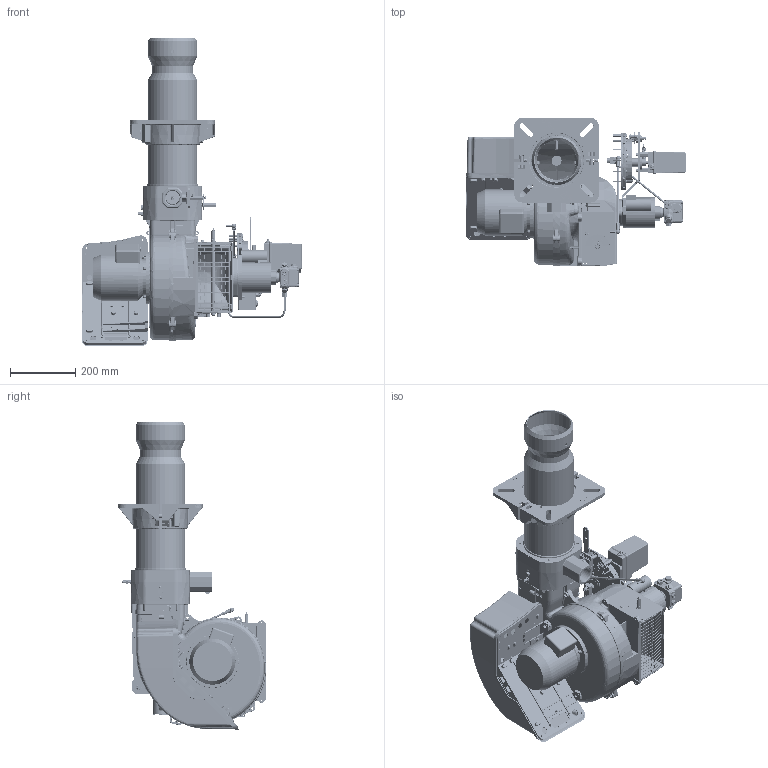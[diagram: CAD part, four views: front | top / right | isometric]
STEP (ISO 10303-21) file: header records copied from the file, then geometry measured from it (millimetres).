
FILE_DESCRIPTION (( 'STEP AP214' ), '1' );
FILE_NAME ('56470010 - TBML 60 P.STEP', '2022-06-15T14:36:07', ( '' ), ( '' ), 'SwSTEP 2.0', 'SolidWorks 2021', '' );
FILE_SCHEMA (( 'AUTOMOTIVE_DESIGN' ));
Length unit declared in the file: millimetre
Products named in the file (111): 8025010013-106297; circlip for bores normal_din_Circlip DIN 472 - 37 x 1.5; 0012120194-107692; spring pin slotted_ld_iso_Spring Pin ISO 13337 - 5 x 16 - St; socket countersunk head screw_din_DIN 7991 - M5 x 25 --- 25C; 0025050035-115807-AUTO; 0006050149-03557; 0005010131-102741; 0012120195-107694; 18690-04847; 0025010002-106312; 0025050035-115806; 0025030016-106434; 30418-02239; 0025010001-106296; hexalobular socket pan head_iso_ISO 14583 - M4 x 8 -4.8-C; 56036-105513; 99975-102673_L. 218; 0012120175-02868; 0025010025-106298; 0025040038-106880; radial ball bearing_68_skf_SKF - 625 - 8,SI,NC,8_68; 0005170059-04177; 0025050034-104865; 0025050039-106195-AUTO; 0012120190-107146; 146-109669; 54200-02171; socket countersunk head screw_din_DIN 7991 - M6 x 20 --- 20C; 0025050028-107911; 0012120170-02310; serrated lock washer 1_din_DIN 6798-A5.3; 56470010 - TBML 60 P; o-rings series a_nbr_iso_O-ring 6.75x1.78-A-ISO 3601-1; 54056-03097; 0012120157-02161; 0025030010-106321; socket countersunk head screw_din_DIN 7991 - M8 x 25 --- 25C; 0012120173-02308; 0025040035-100630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
Assembly tree (170 placements, depth 5):
  56470010 - TBML 60 P
    0006110563-115783
      8025010013-106297  x2
      0025050020-106910
        0025030016-106434
        0025040038-106880
        0025030019-106436
        0024040006-02119  x2
        0025040035-100630
        54200-02171
        0024100070-02115
        13044-03276
        0005170059-04177  x2
        hexalobular socket pan head_iso_ISO 14583 - M4 x 8 -4.8-C
        countersunk flat head cross recess screw_iso_ISO 7046-1 - M5 x 20 - Z --- 20C  x2
        31483-01527
        hex nut style 1 gradeab_iso_Hexagon Nut ISO - 4032 - M5 - D - C
        serrated lock washer 1_din_DIN 6798-A5.3
        hex flange nut_tensilock_din_Hexagon Flange Nut DIN 6923 - M6 - C
        230-109670
        146-109669
        0005140041-03170
        o-rings series a_nbr_iso_O-ring 6.75x1.78-A-ISO 3601-1  x2
      hex screw gradeab_iso_ISO 4017 - M12 x 45-C  x2
      hex nut style 1 gradeab_iso_Hexagon Nut ISO - 4032 - M12 - D - C  x2
      plain washer normal grade a_iso_Washer ISO 7089 - 12  x2
      0025050035-115806
        0025050035-115807-AUTO
        0025050035-115809-AUTO
      0025030010-106321
      0020040004-106331
      0006020143-103192
    0006110566-106893
      0025010004-105617
      54056-03097  x2
      0025010022-106314
      0025010035-105620
      54200-02171
      0005140459-03163
      0006050149-03557
      0025040042-103211
    0025010001-106296
    0025010002-106312
    0025010025-106298
    0025050004-115994
    0005010183-115998
    0025010027-05331
    0025050028-107911
      0025050034-104865
        0025050006-106342
        0025050034-104866-AUTO  x2
      0006110485-02863
        0012120173-02308  x2
        hex nut style 1 gradeab_iso_Hexagon Nut ISO - 4032 - M4 - D - C  x7
        0012120170-02310
        0012120155-02253  x8
        0012120192-107688  x2
        0012120193-107690
        0012120194-107692  x5
        0012120190-107146
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Bounding box: 675.5 x 454.26 x 947.8 mm (x, y, z)
Volume: 10736420.7 mm3; surface area: 3685597.5 mm2
Topology: 164 solids, 206 shells, 13975 faces, 35963 edges, 22453 vertices
Faces by surface type: plane 5050, bspline 4609, cylinder 2841, cone 1282, torus 151, sphere 42
Full cylindrical faces by diameter (mm): 1 x6, 1.2 x2, 2 x2, 2.5 x2, 2.75 x2, 3 x2, 3.2 x2, 3.3 x16, 3.5 x4, 3.6 x2, 3.95 x2, 4 x23, 4.2 x43, 4.3 x10, 4.5 x16, 4.58 x3, 4.6 x6, 4.7 x1, 5 x52, 5.1 x3, 5.2 x7, 5.3 x2, 5.4 x1, 5.5 x16, 5.8 x2, 5.857 x4, 6 x36, 6.2 x4, 6.25 x1, 6.5 x8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
Entity records: 685596 total; most frequent: CARTESIAN_POINT 426640, ORIENTED_EDGE 59694, DIRECTION 35637, EDGE_CURVE 29995, VERTEX_POINT 19481, EDGE_LOOP 14361, VECTOR 13479, LINE 13479
